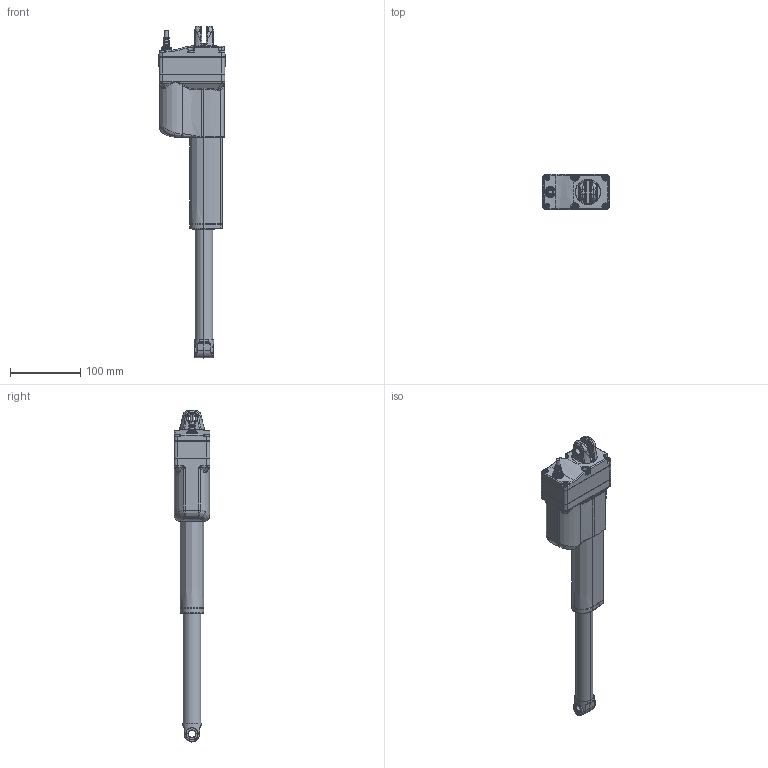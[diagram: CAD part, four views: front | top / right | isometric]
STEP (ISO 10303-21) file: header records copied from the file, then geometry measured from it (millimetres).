
FILE_DESCRIPTION((''),'2;1');
FILE_NAME('KA19_ASM','2026-08-12T11:07:47',('jmo'),(''),'CREO PARAMETRIC BY PTC INC, 2022024','CREO PARAMETRIC BY PTC INC, 2022024','');
FILE_SCHEMA(('AUTOMOTIVE_DESIGN { 1 0 10303 214 1 1 1 1 }'));
Products named in the file (5): KA-19-H; KA-19-PR; KA-19-OT; KA19-BF; KA19_ASM
Assembly tree (4 placements, depth 2):
  KA19_ASM
    KA-19-H
    KA-19-PR
    KA-19-OT
    KA19-BF
Bounding box: 94 x 51 x 471.63 mm (x, y, z)
Volume: 1039968.7 mm3; surface area: 118474.7 mm2
Topology: 4 solids, 13 shells, 1599 faces, 3919 edges, 2376 vertices
Faces by surface type: plane 416, bspline 400, cylinder 381, extrusion 156, torus 125, cone 103, sphere 12, revolution 6
Entity records: 76550 total; most frequent: CARTESIAN_POINT 42062, ORIENTED_EDGE 7814, DIRECTION 5202, EDGE_CURVE 3907, VERTEX_POINT 2376, B_SPLINE_CURVE_WITH_KNOTS 2055, AXIS2_PLACEMENT_3D 1980, EDGE_LOOP 1649
